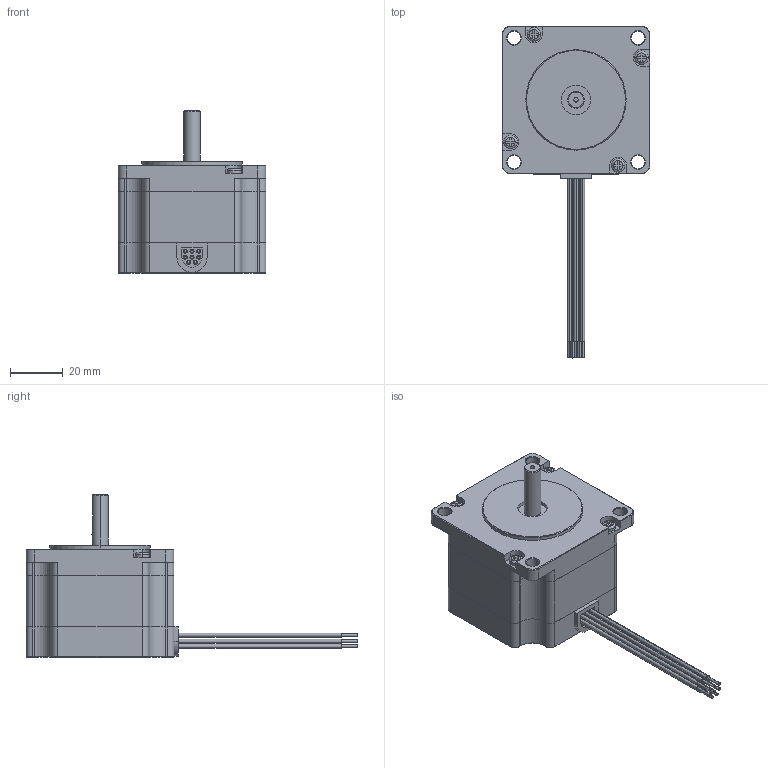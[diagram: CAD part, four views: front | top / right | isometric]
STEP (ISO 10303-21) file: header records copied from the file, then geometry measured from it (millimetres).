
FILE_DESCRIPTION (( 'STEP AP214' ), '1' );
FILE_NAME ('23Y002S-LW8.STEP', '2010-06-11T15:22:09', ( 'Tim Raines' ), ( 'Anaheim Automation' ), 'SwSTEP 2.0', 'SolidWorks 2010', '' );
FILE_SCHEMA (( 'AUTOMOTIVE_DESIGN' ));
Length unit declared in the file: inch
Products named in the file (1): 23Y002S-LW8
Bounding box: 56.13 x 125.98 x 61.57 mm (x, y, z)
Volume: 118891.5 mm3; surface area: 18861.2 mm2
Topology: 1 solids, 1 shells, 336 faces, 830 edges, 526 vertices
Faces by surface type: plane 164, cylinder 117, cone 47, torus 8
Entity records: 14282 total; most frequent: DIRECTION 1785, CARTESIAN_POINT 1691, ORIENTED_EDGE 1644, EDGE_CURVE 822, AXIS2_PLACEMENT_3D 628, LINE 529, VECTOR 529, VERTEX_POINT 526
